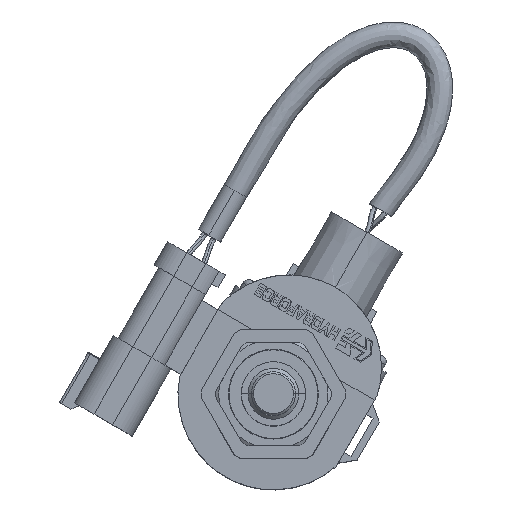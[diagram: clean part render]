
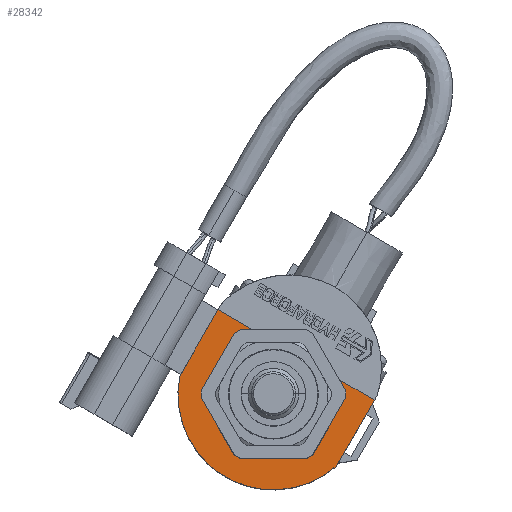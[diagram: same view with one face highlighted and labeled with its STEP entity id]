
A CAD part, top view. The second image highlights one B-rep face of the part: STEP entity #28342.
In plain terms, the highlighted planar face has unit normal (0, 0, 1).
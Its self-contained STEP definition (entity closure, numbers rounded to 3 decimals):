
#8656=CARTESIAN_POINT('',(0.,0.,24.384));
#8657=DIRECTION('',(0.,0.,1.));
#8658=DIRECTION('',(-0.803,0.596,0.));
#8659=AXIS2_PLACEMENT_3D('',#8656,#8657,#8658);
#8661=CARTESIAN_POINT('',(0.,0.,24.384));
#8662=DIRECTION('',(0.,0.,1.));
#8663=DIRECTION('',(-1.,0.,0.));
#8664=AXIS2_PLACEMENT_3D('',#8661,#8662,#8663);
#8666=CARTESIAN_POINT('',(0.,0.,24.384));
#8667=DIRECTION('',(0.,0.,1.));
#8668=DIRECTION('',(1.,0.,0.));
#8669=AXIS2_PLACEMENT_3D('',#8666,#8667,#8668);
#8671=DIRECTION('',(0.,1.,0.));
#8672=VECTOR('',#8671,2.921);
#8673=CARTESIAN_POINT('',(11.214,8.331,24.384));
#8674=LINE('',#8673,#8672);
#8675=DIRECTION('',(1.,0.,0.));
#8676=VECTOR('',#8675,11.062);
#8677=CARTESIAN_POINT('',(11.214,11.252,24.384));
#8678=LINE('',#8677,#8676);
#8679=DIRECTION('',(0.,-1.,0.));
#8680=VECTOR('',#8679,18.923);
#8681=CARTESIAN_POINT('',(22.276,11.252,24.384));
#8682=LINE('',#8681,#8680);
#8683=CARTESIAN_POINT('',(0.,0.,24.384));
#8684=DIRECTION('',(0.,0.,-1.));
#8685=DIRECTION('',(0.946,-0.326,0.));
#8686=AXIS2_PLACEMENT_3D('',#8683,#8684,#8685);
#8688=DIRECTION('',(0.,1.,0.));
#8689=VECTOR('',#8688,18.923);
#8690=CARTESIAN_POINT('',(-22.276,-7.671,24.384));
#8691=LINE('',#8690,#8689);
#8692=DIRECTION('',(1.,0.,0.));
#8693=VECTOR('',#8692,11.062);
#8694=CARTESIAN_POINT('',(-22.276,11.252,24.384));
#8695=LINE('',#8694,#8693);
#8696=DIRECTION('',(0.,-1.,0.));
#8697=VECTOR('',#8696,2.921);
#8698=CARTESIAN_POINT('',(-11.214,11.252,24.384));
#8699=LINE('',#8698,#8697);
#17885=CARTESIAN_POINT('',(-22.276,11.252,24.384));
#17886=VERTEX_POINT('',#17885);
#17887=CARTESIAN_POINT('',(-22.276,-7.671,24.384));
#17888=VERTEX_POINT('',#17887);
#17899=CARTESIAN_POINT('',(-11.214,8.331,24.384));
#17900=CARTESIAN_POINT('',(-13.97,0.,24.384));
#17901=VERTEX_POINT('',#17899);
#17902=VERTEX_POINT('',#17900);
#17903=CARTESIAN_POINT('',(13.97,0.,24.384));
#17904=VERTEX_POINT('',#17903);
#17905=CARTESIAN_POINT('',(11.214,8.331,24.384));
#17906=VERTEX_POINT('',#17905);
#17907=CARTESIAN_POINT('',(11.214,11.252,24.384));
#17908=VERTEX_POINT('',#17907);
#17909=CARTESIAN_POINT('',(22.276,11.252,24.384));
#17910=VERTEX_POINT('',#17909);
#17911=CARTESIAN_POINT('',(22.276,-7.671,24.384));
#17912=VERTEX_POINT('',#17911);
#17913=CARTESIAN_POINT('',(-11.214,11.252,24.384));
#17914=VERTEX_POINT('',#17913);
#28316=CARTESIAN_POINT('',(0.,11.252,24.384));
#28317=DIRECTION('',(0.,0.,1.));
#28318=DIRECTION('',(0.,1.,0.));
#28319=AXIS2_PLACEMENT_3D('',#28316,#28317,#28318);
#28320=PLANE('',#28319);
#28322=ORIENTED_EDGE('',*,*,#28321,.T.);
#28324=ORIENTED_EDGE('',*,*,#28323,.T.);
#28326=ORIENTED_EDGE('',*,*,#28325,.T.);
#28328=ORIENTED_EDGE('',*,*,#28327,.T.);
#28330=ORIENTED_EDGE('',*,*,#28329,.T.);
#28332=ORIENTED_EDGE('',*,*,#28331,.T.);
#28334=ORIENTED_EDGE('',*,*,#28333,.T.);
#28335=ORIENTED_EDGE('',*,*,#28297,.T.);
#28337=ORIENTED_EDGE('',*,*,#28336,.T.);
#28339=ORIENTED_EDGE('',*,*,#28338,.T.);
#28340=EDGE_LOOP('',(#28322,#28324,#28326,#28328,#28330,#28332,#28334,#28335,
#28337,#28339));
#28341=FACE_OUTER_BOUND('',#28340,.F.);
#28342=ADVANCED_FACE('',(#28341),#28320,.T.);
#8660=CIRCLE('',#8659,13.97);
#8665=CIRCLE('',#8664,13.97);
#8670=CIRCLE('',#8669,13.97);
#8687=CIRCLE('',#8686,23.56);
#28297=EDGE_CURVE('',#17888,#17886,#8691,.T.);
#28321=EDGE_CURVE('',#17901,#17902,#8660,.T.);
#28323=EDGE_CURVE('',#17902,#17904,#8665,.T.);
#28325=EDGE_CURVE('',#17904,#17906,#8670,.T.);
#28327=EDGE_CURVE('',#17906,#17908,#8674,.T.);
#28329=EDGE_CURVE('',#17908,#17910,#8678,.T.);
#28331=EDGE_CURVE('',#17910,#17912,#8682,.T.);
#28333=EDGE_CURVE('',#17912,#17888,#8687,.T.);
#28336=EDGE_CURVE('',#17886,#17914,#8695,.T.);
#28338=EDGE_CURVE('',#17914,#17901,#8699,.T.);
